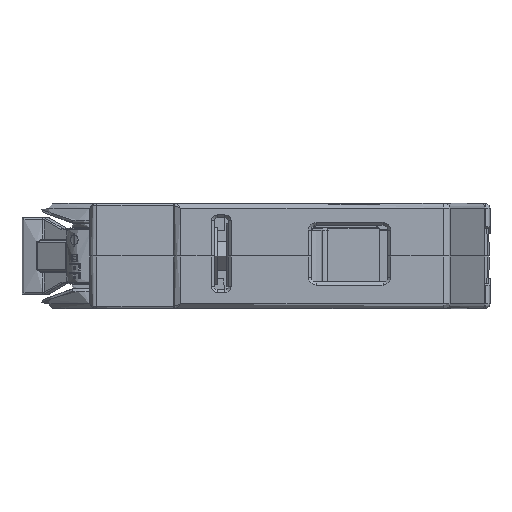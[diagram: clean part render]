
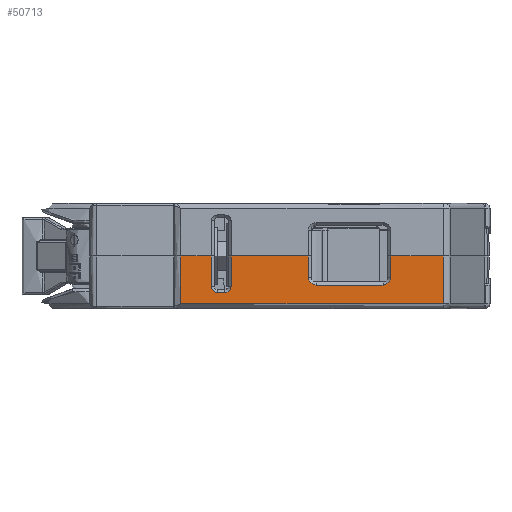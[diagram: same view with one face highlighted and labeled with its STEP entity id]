
A CAD part, left-side view. The second image highlights one B-rep face of the part: STEP entity #50713.
In plain terms, the highlighted planar face has unit normal (-1, 0, 0).
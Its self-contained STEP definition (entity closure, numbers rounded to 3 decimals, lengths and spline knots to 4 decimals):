
#2463=LINE($,#76481,#8911);
#2464=LINE($,#76484,#8912);
#2739=LINE($,#77498,#9187);
#2740=LINE($,#77500,#9188);
#2741=LINE($,#77502,#9189);
#2742=LINE($,#77506,#9190);
#2743=LINE($,#77510,#9191);
#2744=LINE($,#77512,#9192);
#2745=LINE($,#77514,#9193);
#2746=LINE($,#77516,#9194);
#2747=LINE($,#77517,#9195);
#2748=LINE($,#77519,#9196);
#8911=VECTOR($,#58776,0.139);
#8912=VECTOR($,#58779,0.3436);
#9187=VECTOR($,#59374,0.139);
#9188=VECTOR($,#59375,0.505);
#9189=VECTOR($,#59376,0.2);
#9190=VECTOR($,#59379,0.05);
#9191=VECTOR($,#59382,0.2);
#9192=VECTOR($,#59383,0.199);
#9193=VECTOR($,#59384,0.313);
#9194=VECTOR($,#59385,1.7176);
#9195=VECTOR($,#59386,0.313);
#9196=VECTOR($,#59387,0.438);
#15081=FACE_OUTER_BOUND($,#17307,.T.);
#17307=EDGE_LOOP($,(#38633,#38634,#38635,#38636,#38637,#38638,#38639,#38640,
#38641,#38642,#38643,#38644,#38645,#38646,#38647,#38648));
#19486=CIRCLE($,#53059,0.051);
#19524=CIRCLE($,#53191,0.04);
#19525=CIRCLE($,#53192,0.04);
#19526=CIRCLE($,#53193,0.051);
#22879=VERTEX_POINT($,#76477);
#22880=VERTEX_POINT($,#76479);
#22881=VERTEX_POINT($,#76483);
#22974=VERTEX_POINT($,#76695);
#23125=VERTEX_POINT($,#77496);
#23126=VERTEX_POINT($,#77497);
#23127=VERTEX_POINT($,#77499);
#23128=VERTEX_POINT($,#77501);
#23129=VERTEX_POINT($,#77503);
#23130=VERTEX_POINT($,#77505);
#23131=VERTEX_POINT($,#77507);
#23132=VERTEX_POINT($,#77509);
#23133=VERTEX_POINT($,#77511);
#23134=VERTEX_POINT($,#77513);
#23135=VERTEX_POINT($,#77515);
#23136=VERTEX_POINT($,#77518);
#29438=EDGE_CURVE($,#22879,#22880,#2463,.T.);
#29439=EDGE_CURVE($,#22881,#22879,#2464,.T.);
#29545=EDGE_CURVE($,#22880,#22974,#19486,.T.);
#29785=EDGE_CURVE($,#23125,#23126,#2739,.T.);
#29786=EDGE_CURVE($,#23126,#23127,#2740,.T.);
#29787=EDGE_CURVE($,#23127,#23128,#2741,.T.);
#29788=EDGE_CURVE($,#23128,#23129,#19524,.T.);
#29789=EDGE_CURVE($,#23129,#23130,#2742,.T.);
#29790=EDGE_CURVE($,#23130,#23131,#19525,.T.);
#29791=EDGE_CURVE($,#23131,#23132,#2743,.T.);
#29792=EDGE_CURVE($,#23132,#23133,#2744,.T.);
#29793=EDGE_CURVE($,#23133,#23134,#2745,.T.);
#29794=EDGE_CURVE($,#23135,#23134,#2746,.T.);
#29795=EDGE_CURVE($,#23135,#22881,#2747,.T.);
#29796=EDGE_CURVE($,#22974,#23136,#2748,.T.);
#29797=EDGE_CURVE($,#23136,#23125,#19526,.T.);
#38633=ORIENTED_EDGE($,*,*,#29785,.T.);
#38634=ORIENTED_EDGE($,*,*,#29786,.T.);
#38635=ORIENTED_EDGE($,*,*,#29787,.T.);
#38636=ORIENTED_EDGE($,*,*,#29788,.T.);
#38637=ORIENTED_EDGE($,*,*,#29789,.T.);
#38638=ORIENTED_EDGE($,*,*,#29790,.T.);
#38639=ORIENTED_EDGE($,*,*,#29791,.T.);
#38640=ORIENTED_EDGE($,*,*,#29792,.T.);
#38641=ORIENTED_EDGE($,*,*,#29793,.T.);
#38642=ORIENTED_EDGE($,*,*,#29794,.F.);
#38643=ORIENTED_EDGE($,*,*,#29795,.T.);
#38644=ORIENTED_EDGE($,*,*,#29439,.T.);
#38645=ORIENTED_EDGE($,*,*,#29438,.T.);
#38646=ORIENTED_EDGE($,*,*,#29545,.T.);
#38647=ORIENTED_EDGE($,*,*,#29796,.T.);
#38648=ORIENTED_EDGE($,*,*,#29797,.T.);
#49369=PLANE($,#53190);
#50713=ADVANCED_FACE($,(#15081),#49369,.T.);
#53059=AXIS2_PLACEMENT_3D($,#76696,#58926,#58927);
#53190=AXIS2_PLACEMENT_3D($,#77495,#59372,#59373);
#53191=AXIS2_PLACEMENT_3D($,#77504,#59377,#59378);
#53192=AXIS2_PLACEMENT_3D($,#77508,#59380,#59381);
#53193=AXIS2_PLACEMENT_3D($,#77520,#59388,#59389);
#58776=DIRECTION($,(0.,0.,-1.));
#58779=DIRECTION($,(0.,1.,0.));
#58926=DIRECTION('center_axis',(1.,0.,0.));
#58927=DIRECTION('ref_axis',(0.,0.,-1.));
#59372=DIRECTION('center_axis',(-1.,0.,0.));
#59373=DIRECTION('ref_axis',(0.,-1.,0.));
#59374=DIRECTION($,(0.,0.,1.));
#59375=DIRECTION($,(0.,1.,0.));
#59376=DIRECTION($,(0.,0.,-1.));
#59377=DIRECTION('center_axis',(1.,0.,0.));
#59378=DIRECTION('ref_axis',(0.,0.,-1.));
#59379=DIRECTION($,(0.,1.,0.));
#59380=DIRECTION('center_axis',(1.,0.,0.));
#59381=DIRECTION('ref_axis',(0.,0.,-1.));
#59382=DIRECTION($,(0.,0.,1.));
#59383=DIRECTION($,(0.,1.,0.));
#59384=DIRECTION($,(0.,0.,-1.));
#59385=DIRECTION($,(0.,1.,0.));
#59386=DIRECTION($,(0.,0.,1.));
#59387=DIRECTION($,(0.,1.,0.));
#59388=DIRECTION('center_axis',(1.,0.,0.));
#59389=DIRECTION('ref_axis',(0.,0.,-1.));
#76477=CARTESIAN_POINT('',(-1.73,-1.231,0.));
#76479=CARTESIAN_POINT('',(-1.73,-1.231,-0.139));
#76481=CARTESIAN_POINT($,(-1.73,-1.231,-0.0348));
#76483=CARTESIAN_POINT('',(-1.73,-1.5746,0.));
#76484=CARTESIAN_POINT($,(-1.73,-1.5746,0.));
#76695=CARTESIAN_POINT('',(-1.73,-1.18,-0.19));
#76696=CARTESIAN_POINT('Origin',(-1.73,-1.18,-0.139));
#77495=CARTESIAN_POINT('Origin',(-1.73,0.19,0.));
#77496=CARTESIAN_POINT('',(-1.73,-0.691,-0.139));
#77497=CARTESIAN_POINT('',(-1.73,-0.691,0.));
#77498=CARTESIAN_POINT($,(-1.73,-0.691,-0.0348));
#77499=CARTESIAN_POINT('',(-1.73,-0.186,0.));
#77500=CARTESIAN_POINT($,(-1.73,-0.691,0.));
#77501=CARTESIAN_POINT('',(-1.73,-0.186,-0.2));
#77502=CARTESIAN_POINT($,(-1.73,-0.186,-0.05));
#77503=CARTESIAN_POINT('',(-1.73,-0.146,-0.24));
#77504=CARTESIAN_POINT('Origin',(-1.73,-0.146,-0.2));
#77505=CARTESIAN_POINT('',(-1.73,-0.096,-0.24));
#77506=CARTESIAN_POINT($,(-1.73,0.0345,-0.24));
#77507=CARTESIAN_POINT('',(-1.73,-0.056,-0.2));
#77508=CARTESIAN_POINT('Origin',(-1.73,-0.096,-0.2));
#77509=CARTESIAN_POINT('',(-1.73,-0.056,0.));
#77510=CARTESIAN_POINT($,(-1.73,-0.056,-0.05));
#77511=CARTESIAN_POINT('',(-1.73,0.143,0.));
#77512=CARTESIAN_POINT($,(-1.73,-0.056,0.));
#77513=CARTESIAN_POINT('',(-1.73,0.143,-0.313));
#77514=CARTESIAN_POINT($,(-1.73,0.143,0.));
#77515=CARTESIAN_POINT('',(-1.73,-1.5746,-0.313));
#77516=CARTESIAN_POINT($,(-1.73,-1.5746,-0.313));
#77517=CARTESIAN_POINT($,(-1.73,-1.5746,-0.313));
#77518=CARTESIAN_POINT('',(-1.73,-0.742,-0.19));
#77519=CARTESIAN_POINT($,(-1.73,-0.3855,-0.19));
#77520=CARTESIAN_POINT('Origin',(-1.73,-0.742,-0.139));
